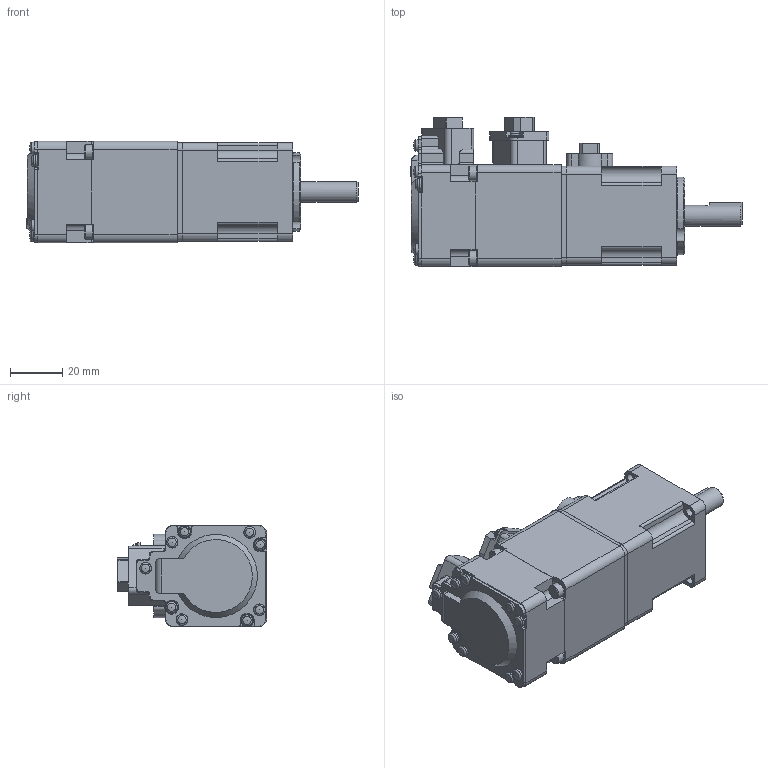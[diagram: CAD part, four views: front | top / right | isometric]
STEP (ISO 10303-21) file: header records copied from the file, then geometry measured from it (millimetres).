
FILE_DESCRIPTION( ( 'STEP AP214' ), '1' );
FILE_NAME( 'e:/temp/worker_105/temp/exporttempdir_6728_789_BExde/format_0/MSMF5AZL1V1.stp', '2022-04-08T06:22:59', ( 'License CC BY-ND 4.0' ), ( 'CADENAS' ), ' ', 'PARTsolutions', ' ' );
FILE_SCHEMA( ( 'AUTOMOTIVE_DESIGN { 1 0 10303 214 1 1 1 1 }' ) );
Length unit declared in the file: millimetre
Products named in the file (2): MSMF5AZL1V1; _MSME5AZG1V(12)
Assembly tree (1 placements, depth 2):
  MSMF5AZL1V1
    _MSME5AZG1V(12)
Bounding box: 127.5 x 57.3 x 39 mm (x, y, z)
Volume: 158247.7 mm3; surface area: 26582.4 mm2
Topology: 1 solids, 1 shells, 647 faces, 1686 edges, 1105 vertices
Faces by surface type: plane 390, cylinder 204, cone 26, torus 14, bspline 13
Full cylindrical faces by diameter (mm): 1.5 x2, 2 x2, 2.3 x4, 2.459 x1, 2.7 x4, 3.4 x4, 4.3 x2, 4.4 x2, 4.8 x4, 5 x7, 5.35 x1, 5.5 x9, 5.6 x4, 6 x2, 8 x1, 10.5 x1
Entity records: 24766 total; most frequent: CARTESIAN_POINT 3799, DIRECTION 3275, ORIENTED_EDGE 3128, EDGE_CURVE 1564, AXIS2_PLACEMENT_3D 1098, VERTEX_POINT 1092, LINE 1079, VECTOR 1079
